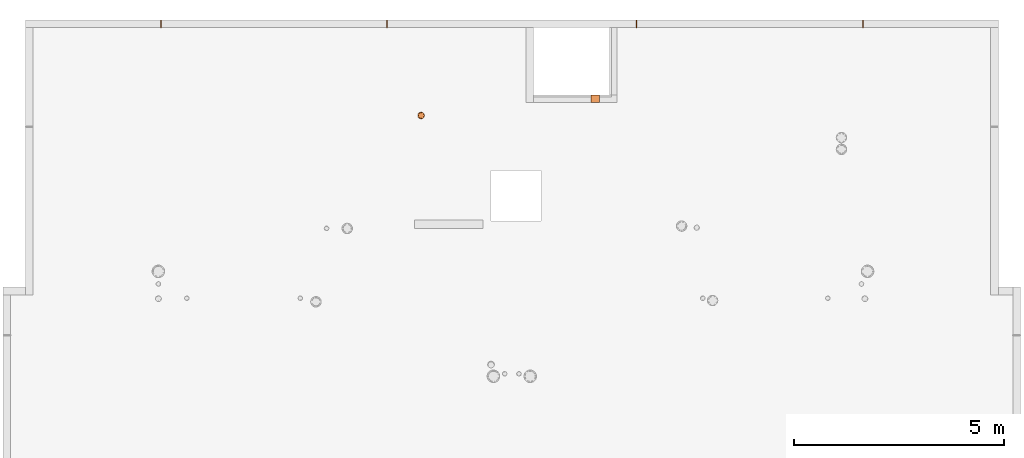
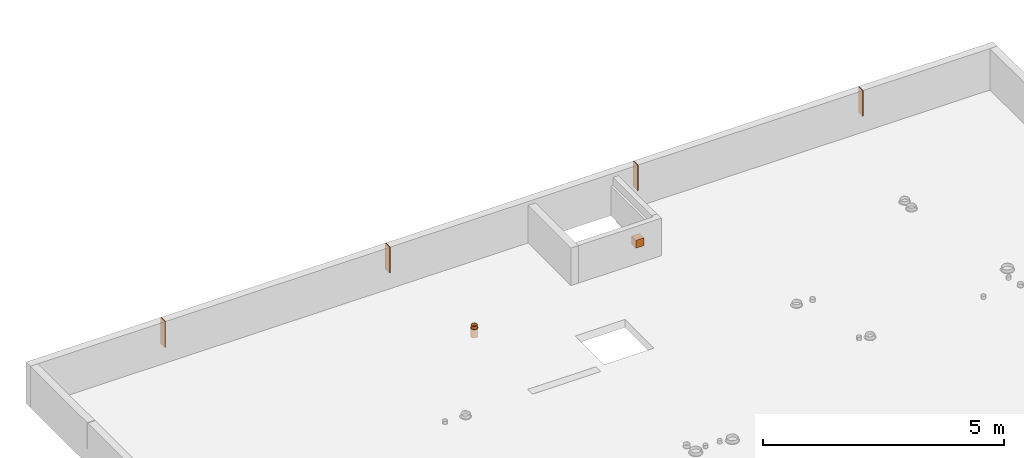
# One storey, part 9 of 12: 6 proxies.
"""IFC2X3 building model written with IfcOpenShell, lengths in centimetres."""

from ifc_helpers import new_model, entity, si_unit, converted_unit, derived_unit, direction, frame, frame_2d, origin, place, context, subcontext, project, spatial, rectangle, circle, hollow_circle, extrude, source, transform, mapped, material, type_object, type_shapes, element, save


model = new_model("IFC2X3")

# Units and contexts
model_context = context("Model", 3, precision=0.001, world=origin(), true_north=direction((6.12303176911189e-17, 1.0)))
body_context = subcontext(model_context, "Body", "Model", "MODEL_VIEW")
ifc_project = project(units=[si_unit("LENGTHUNIT", "METRE", prefix="CENTI"), si_unit("AREAUNIT", "SQUARE_METRE"), si_unit("VOLUMEUNIT", "CUBIC_METRE"), converted_unit("PLANEANGLEUNIT", "DEGREE", entity("IfcRatioMeasure", 0.0174532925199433), si_unit("PLANEANGLEUNIT", "RADIAN"), dimensions=[0, 0, 0, 0, 0, 0, 0]), si_unit("MASSUNIT", "GRAM", prefix="KILO"), derived_unit("MASSDENSITYUNIT", [(si_unit("MASSUNIT", "GRAM", prefix="KILO"), 1), (si_unit("LENGTHUNIT", "METRE"), -3)]), si_unit("TIMEUNIT", "SECOND"), si_unit("FREQUENCYUNIT", "HERTZ"), si_unit("THERMODYNAMICTEMPERATUREUNIT", "DEGREE_CELSIUS"), derived_unit("THERMALTRANSMITTANCEUNIT", [(si_unit("MASSUNIT", "GRAM", prefix="KILO"), 1), (si_unit("THERMODYNAMICTEMPERATUREUNIT", "KELVIN"), -1), (si_unit("TIMEUNIT", "SECOND"), -3)]), derived_unit("VOLUMETRICFLOWRATEUNIT", [(si_unit("LENGTHUNIT", "METRE"), 3), (si_unit("TIMEUNIT", "SECOND"), -1)]), si_unit("ELECTRICCURRENTUNIT", "AMPERE"), si_unit("ELECTRICVOLTAGEUNIT", "VOLT"), si_unit("POWERUNIT", "WATT"), si_unit("FORCEUNIT", "NEWTON"), si_unit("ILLUMINANCEUNIT", "LUX"), si_unit("LUMINOUSFLUXUNIT", "LUMEN"), si_unit("LUMINOUSINTENSITYUNIT", "CANDELA"), derived_unit("USERDEFINED", [(si_unit("MASSUNIT", "GRAM", prefix="KILO"), -1), (si_unit("LENGTHUNIT", "METRE"), -2), (si_unit("TIMEUNIT", "SECOND"), 3), (si_unit("LUMINOUSFLUXUNIT", "LUMEN"), 1)]), derived_unit("LINEARVELOCITYUNIT", [(si_unit("LENGTHUNIT", "METRE"), 1), (si_unit("TIMEUNIT", "SECOND"), -1)]), si_unit("PRESSUREUNIT", "PASCAL"), derived_unit("USERDEFINED", [(si_unit("LENGTHUNIT", "METRE"), -2), (si_unit("MASSUNIT", "GRAM", prefix="KILO"), 1), (si_unit("TIMEUNIT", "SECOND"), -2)])], contexts=[model_context])

# Site, building, storey
site_placement = place(None, origin())
site = spatial("IfcSite", under=ifc_project, at=site_placement, Name="Default", CompositionType="ELEMENT")
building_placement = place(site_placement, origin())
building = spatial("IfcBuilding", under=site, at=building_placement, Name="CAGE 03", CompositionType="ELEMENT")
storey_placement = place(building_placement, frame((0.0, 0.0, 1690.0)))
storey = spatial("IfcBuildingStorey", under=building, at=storey_placement, Name="R+6", CompositionType="ELEMENT", Elevation=1690.0)

# Proxies
ifc_material_1 = material(Name="BBGO_Résa")
building_element_proxy_type_1 = type_object("IfcBuildingElementProxyType", Name="J.F.", PredefinedType="NOTDEFINED", material=ifc_material_1)
shared_shape_1 = source(origin(), body_context, "Body", "SweptSolid", [
    extrude(rectangle(XDim=17.9999999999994, YDim=2.00000000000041, at=frame_2d((4.33431068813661e-13, -4.33209024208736e-13), x_axis=(1.0, 0.0))), frame((6246.36582014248, 5119.6606660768, 1730.0), z_axis=(0.0, 0.0, 1.0), x_axis=(0.0, 1.0, 0.0)), (0.0, 0.0, 1.0), 64.9999999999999),
])
type_shapes(building_element_proxy_type_1, [shared_shape_1])
proxy_1_placement = place(storey_placement, frame((0.0, 0.0, -1690.0)))
element("IfcBuildingElementProxy", 1, at=proxy_1_placement, inside=storey, type_object=building_element_proxy_type_1, material=ifc_material_1, Name="BBGO-Résa rect et circ:J.F.", ObjectType="J.F.", context=body_context, shape_type="MappedRepresentation", body=[
    mapped(shared_shape_1, transform((0.0, 0.0, 0.0), scale=1.0)),
])
building_element_proxy_type_2 = type_object("IfcBuildingElementProxyType", Name="J.F.", PredefinedType="NOTDEFINED", material=ifc_material_1)
shared_shape_2 = source(origin(), body_context, "Body", "SweptSolid", [
    extrude(rectangle(XDim=17.9999999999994, YDim=2.00000000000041, at=frame_2d((4.33431068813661e-13, -4.33209024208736e-13), x_axis=(1.0, 0.0))), frame((6784.36582014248, 5119.6606660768, 1730.0), z_axis=(0.0, 0.0, 1.0), x_axis=(0.0, 1.0, 0.0)), (0.0, 0.0, 1.0), 64.9999999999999),
])
type_shapes(building_element_proxy_type_2, [shared_shape_2])
proxy_2_placement = place(storey_placement, frame((0.0, 0.0, -1690.0)))
element("IfcBuildingElementProxy", 2, at=proxy_2_placement, inside=storey, type_object=building_element_proxy_type_2, material=ifc_material_1, Name="BBGO-Résa rect et circ:J.F.", ObjectType="J.F.", context=body_context, shape_type="MappedRepresentation", body=[
    mapped(shared_shape_2, transform((0.0, 0.0, 0.0), scale=1.0)),
])
building_element_proxy_type_3 = type_object("IfcBuildingElementProxyType", Name="J.F.", PredefinedType="NOTDEFINED", material=ifc_material_1)
shared_shape_3 = source(origin(), body_context, "Body", "SweptSolid", [
    extrude(rectangle(XDim=17.9999999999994, YDim=2.00000000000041, at=frame_2d((4.33431068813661e-13, -4.33209024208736e-13), x_axis=(1.0, 0.0))), frame((7378.36582014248, 5119.6606660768, 1730.0), z_axis=(0.0, 0.0, 1.0), x_axis=(0.0, 1.0, 0.0)), (0.0, 0.0, 1.0), 64.9999999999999),
])
type_shapes(building_element_proxy_type_3, [shared_shape_3])
proxy_3_placement = place(storey_placement, frame((0.0, 0.0, -1690.0)))
element("IfcBuildingElementProxy", 3, at=proxy_3_placement, inside=storey, type_object=building_element_proxy_type_3, material=ifc_material_1, Name="BBGO-Résa rect et circ:J.F.", ObjectType="J.F.", context=body_context, shape_type="MappedRepresentation", body=[
    mapped(shared_shape_3, transform((0.0, 0.0, 0.0), scale=1.0)),
])
building_element_proxy_type_4 = type_object("IfcBuildingElementProxyType", Name="J.F.", PredefinedType="NOTDEFINED", material=ifc_material_1)
shared_shape_4 = source(origin(), body_context, "Body", "SweptSolid", [
    extrude(rectangle(XDim=17.9999999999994, YDim=1.99999999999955, at=frame_2d((4.33431068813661e-13, 0.0), x_axis=(1.0, 0.0))), frame((7917.36582014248, 5119.6606660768, 1730.0), z_axis=(0.0, 0.0, 1.0), x_axis=(0.0, 1.0, 0.0)), (0.0, 0.0, 1.0), 64.9999999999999),
])
type_shapes(building_element_proxy_type_4, [shared_shape_4])
proxy_4_placement = place(storey_placement, frame((0.0, 0.0, -1690.0)))
element("IfcBuildingElementProxy", 4, at=proxy_4_placement, inside=storey, type_object=building_element_proxy_type_4, material=ifc_material_1, Name="BBGO-Résa rect et circ:J.F.", ObjectType="J.F.", context=body_context, shape_type="MappedRepresentation", body=[
    mapped(shared_shape_4, transform((0.0, 0.0, 0.0), scale=1.0)),
])
building_element_proxy_type_5 = type_object("IfcBuildingElementProxyType", Name="Réservation", PredefinedType="NOTDEFINED", material=ifc_material_1)
shared_shape_5 = source(origin(), body_context, "Body", "SweptSolid", [
    extrude(rectangle(XDim=17.9999999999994, YDim=19.9999999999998, at=frame_2d((4.33431068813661e-13, -4.33431068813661e-13), x_axis=(1.0, 0.0))), frame((7280.36582014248, 4941.6606660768, 1730.0), z_axis=(0.0, 0.0, 1.0), x_axis=(0.0, 1.0, 0.0)), (0.0, 0.0, 1.0), 20.0),
])
type_shapes(building_element_proxy_type_5, [shared_shape_5])
proxy_5_placement = place(storey_placement, frame((0.0, 0.0, -1690.0)))
element("IfcBuildingElementProxy", 5, at=proxy_5_placement, inside=storey, type_object=building_element_proxy_type_5, material=ifc_material_1, Name="BBGO-Résa rect et circ:Réservation", ObjectType="Réservation", context=body_context, shape_type="MappedRepresentation", body=[
    mapped(shared_shape_5, transform((0.0, 0.0, 0.0), scale=1.0)),
])
ifc_material_2 = material(Name="Conduit EP")
building_element_proxy_type_6 = type_object("IfcBuildingElementProxyType", Name="EP 141", PredefinedType="NOTDEFINED", material=ifc_material_2)
shared_shape_6 = source(origin(), body_context, "Body", "SweptSolid", [
    extrude(circle(Radius=8.0, at=frame_2d((0.0, -1.29243565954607e-14), x_axis=(1.0, 0.0))), frame((0.0, 0.0, -21.0)), (0.0, 0.0, 1.0), 21.0),
    extrude(hollow_circle(Radius=7.0, WallThickness=0.25, at=frame_2d((0.0, -1.13088120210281e-14), x_axis=(1.0, 0.0))), frame((0.0, 0.0, -21.0)), (0.0, 0.0, 1.0), 28.5),
])
type_shapes(building_element_proxy_type_6, [shared_shape_6])
proxy_6_placement = place(storey_placement, frame((6865.50016617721, 4901.35353976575, 0.0)))
element("IfcBuildingElementProxy", 6, at=proxy_6_placement, inside=storey, type_object=building_element_proxy_type_6, material=ifc_material_2, Name="Galette - Résa - PVC5:EP 141", ObjectType="EP 141", context=body_context, shape_type="MappedRepresentation", body=[
    mapped(shared_shape_6, transform((0.0, 0.0, 0.0), scale=1.0)),
])

save(model, "model.ifc")
